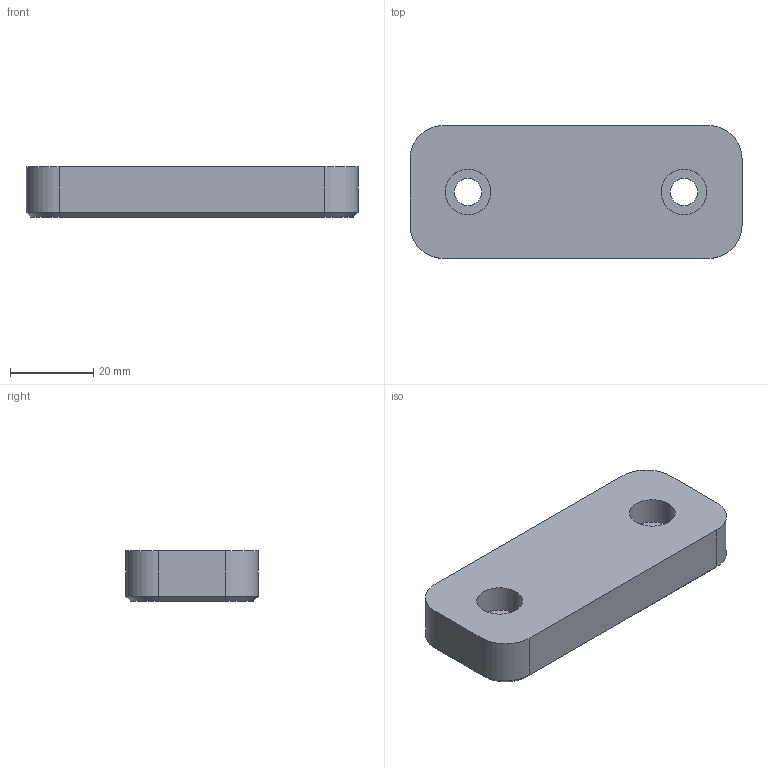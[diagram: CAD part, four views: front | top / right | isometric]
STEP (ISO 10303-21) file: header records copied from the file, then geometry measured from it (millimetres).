
FILE_DESCRIPTION (( 'STEP AP214' ), '1' );
FILE_NAME ('F2680_03208012.STEP', '2024-09-10T07:33:19', ( '' ), ( '' ), 'SwSTEP 2.0', 'SolidWorks 2014', '' );
FILE_SCHEMA (( 'AUTOMOTIVE_DESIGN' ));
Length unit declared in the file: millimetre
Products named in the file (1): F2680_03208012
Bounding box: 80 x 32 x 12.1 mm (x, y, z)
Volume: 28530.9 mm3; surface area: 7952 mm2
Topology: 1 solids, 1 shells, 28 faces, 64 edges, 40 vertices
Faces by surface type: cylinder 12, plane 12, cone 4
Entity records: 834 total; most frequent: DIRECTION 150, CARTESIAN_POINT 133, ORIENTED_EDGE 128, EDGE_CURVE 64, AXIS2_PLACEMENT_3D 57, VERTEX_POINT 40, LINE 36, VECTOR 36
